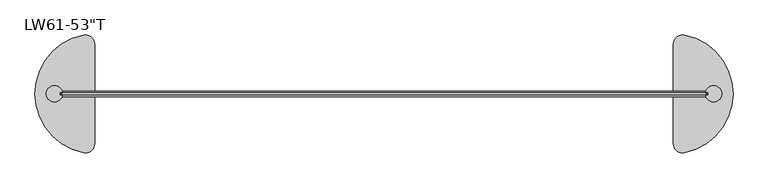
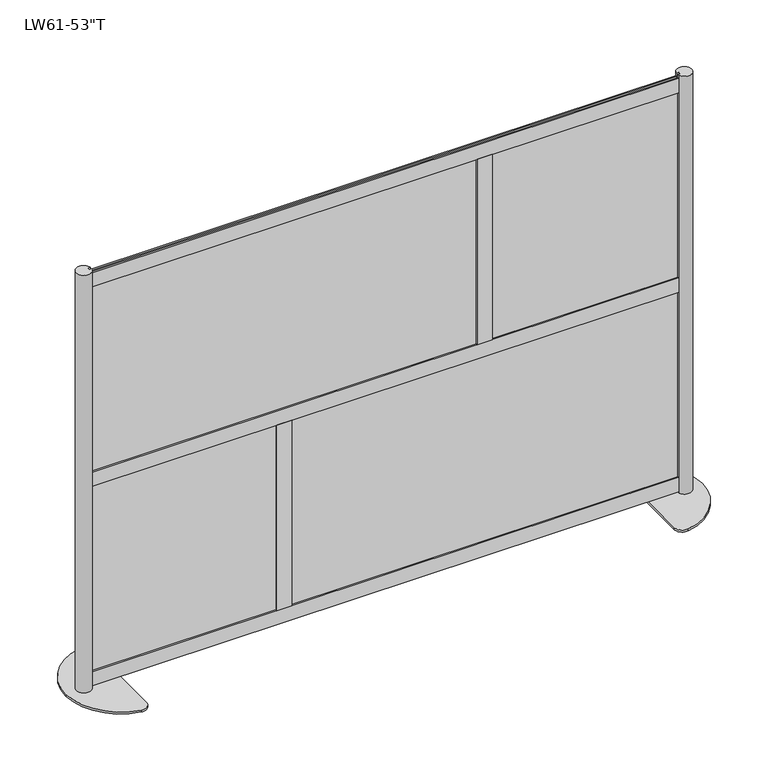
"""IFC4 building model written with IfcOpenShell, lengths in millimetres: furniture geometry."""

from ifc_helpers import new_model, si_unit, point, frame, frame_2d, origin, origin_with_axes, place, context, project, spatial, polyline, circle_curve, trimmed, segment, composite_curve, outline, extrude, source, transform, mapped, element, save


def furniture_4f8a734f(model_context):
    return source(origin(), model_context, "Body", "SweptSolid", [
        extrude(outline(polyline([(289.233901, -1.531862), (-899.803599, -1.531862), (-899.803599, 1.643138), (289.233901, 1.643138), (289.233901, -1.531862)])), frame((0.0, 0.0, 689.2170135), z_axis=(0.0, 0.0, 1.0), x_axis=(1.0, 0.0, 0.0)), (0.0, 0.0, 1.0), 608.965),
        extrude(outline(polyline([(-897.2933616, 1.5875), (-319.4433608, 1.5875), (-319.4435344, -1.5875), (-897.2935353, -1.5875), (-897.2933616, 1.5875)])), frame((0.0, 0.0, 49.2633), z_axis=(0.0, 0.0, 1.0), x_axis=(1.0, 0.0, 0.0)), (0.0, 0.0, 1.0), 608.965),
        extrude(outline(polyline([(316.9532876, 1.5875), (894.8032884, 1.5875), (894.8031147, -1.5875), (316.9531139, -1.5875), (316.9532876, 1.5875)])), frame((0.0, 0.0, 689.2671), z_axis=(0.0, 0.0, 1.0), x_axis=(1.0, 0.0, 0.0)), (0.0, 0.0, 1.0), 608.965),
        extrude(outline(polyline([(893.3285387, -1.531862), (-295.7089613, -1.531862), (-295.7089613, 1.643138), (893.3285387, 1.643138), (893.3285387, -1.531862)])), frame((0.0, 0.0, 49.2132135), z_axis=(0.0, 0.0, 1.0), x_axis=(1.0, 0.0, 0.0)), (0.0, 0.0, 1.0), 608.965),
        extrude(outline(polyline([(323.8118123, 3.556), (316.6998123, 3.556), (316.6998123, -3.556), (323.8118123, -3.556), (323.8118123, -7.6327), (278.5490123, -7.6327), (278.5490123, -3.556), (285.6610123, -3.556), (285.6610123, 3.556), (278.5490123, 3.556), (278.5490123, 7.6327), (323.8118123, 7.6327), (323.8118123, 3.556)])), frame((0.0, 0.0, 696.3791), z_axis=(0.0, 0.0, 1.0), x_axis=(1.0, 0.0, 0.0)), (0.0, 0.0, 1.0), 594.741),
        extrude(outline(polyline([(-329.3680623, 3.556), (-329.3680623, 7.6327), (-284.1052623, 7.6327), (-284.1052623, 3.556), (-291.2172623, 3.556), (-291.2172623, -3.556), (-284.1052623, -3.556), (-284.1052623, -7.6327), (-329.3680623, -7.6327), (-329.3680623, -3.556), (-322.2560623, -3.556), (-322.2560623, 3.556), (-329.3680623, 3.556)])), frame((0.0, 0.0, 56.3753), z_axis=(0.0, 0.0, 1.0), x_axis=(1.0, 0.0, 0.0)), (0.0, 0.0, 1.0), 594.741),
        extrude(outline(polyline([(3.556, 651.1163), (3.556, 658.2283), (-3.556, 658.2283), (-3.556, 651.1163), (-7.6327, 651.1163), (-7.6327, 696.3791), (-3.556, 696.3791), (-3.556, 689.2671), (3.556, 689.2671), (3.556, 696.3791), (7.6327, 696.3791), (7.6327, 651.1163), (3.556, 651.1163)])), frame((-889.7874, 0.0, 0.0), z_axis=(1.0, 0.0, 0.0), x_axis=(0.0, 1.0, 0.0)), (0.0, 0.0, 1.0), 1779.5748),
        extrude(outline(polyline([(3.556, 11.1125), (3.556, 18.2245), (-3.556, 18.2245), (-3.556, 11.1125), (-7.6327, 11.1125), (-7.6327, 56.3753), (-3.556, 56.3753), (-3.556, 49.2633), (3.556, 49.2633), (3.556, 56.3753), (7.6327, 56.3753), (7.6327, 11.1125), (3.556, 11.1125)])), frame((-889.8636, 0.0, 0.0), z_axis=(1.0, 0.0, 0.0), x_axis=(0.0, 1.0, 0.0)), (0.0, 0.0, 1.0), 1779.7272),
        extrude(outline(polyline([(3.556, 1291.1200292), (3.556, 1298.2320292), (-3.556, 1298.2320292), (-3.556, 1291.1200292), (-7.6327, 1291.1200292), (-7.6327, 1336.3828292), (-3.556, 1336.3828292), (-3.556, 1329.2708292), (3.556, 1329.2708292), (3.556, 1336.3828292), (7.6327, 1336.3828292), (7.6327, 1291.1200292), (3.556, 1291.1200292)])), frame((-889.8636, 0.0, 0.0), z_axis=(1.0, 0.0, 0.0), x_axis=(0.0, 1.0, 0.0)), (0.0, 0.0, 1.0), 1779.7272),
        extrude(outline(composite_curve([segment(polyline([(889.8636, -7.7568093), (889.8636, -3.556), (896.9756, -3.556), (896.9756, 3.556), (889.8636, 3.556), (889.8636, 7.7568093)]), True, "CONTINUOUS"), segment(trimmed(circle_curve(frame_2d((910.9665837, 0.0)), 22.4834163), [point((889.8636, 7.7568093))], [point((889.8636, -7.7568093))], False, "CARTESIAN"), True, "CONTINUOUS")], self_intersect=False)), frame((0.0, 0.0, 6.35), z_axis=(0.0, 0.0, 1.0), x_axis=(1.0, 0.0, 0.0)), (0.0, 0.0, 1.0), 1339.85),
        extrude(outline(composite_curve([segment(polyline([(800.1, -137.3715036), (800.1, 137.3715036)]), True, "CONTINUOUS"), segment(trimmed(circle_curve(frame_2d((825.5, 137.3715036)), 25.4), [point((800.1, 137.3715036))], [point((830.1181818, 162.3481406))], False, "CARTESIAN"), True, "CONTINUOUS"), segment(trimmed(circle_curve(frame_2d((800.1, 0.0)), 165.1), [point((830.1181818, 162.3481406))], [point((965.2, 0.0))], False, "CARTESIAN"), True, "CONTINUOUS"), segment(trimmed(circle_curve(frame_2d((800.1, 0.0)), 165.1), [point((965.2, 0.0))], [point((830.1181818, -162.3481406))], False, "CARTESIAN"), True, "CONTINUOUS"), segment(trimmed(circle_curve(frame_2d((825.5, -137.3715036)), 25.4), [point((830.1181818, -162.3481406))], [point((800.1, -137.3715036))], False, "CARTESIAN"), True, "CONTINUOUS")], self_intersect=False)), origin_with_axes(), (0.0, 0.0, 1.0), 6.35),
        extrude(outline(composite_curve([segment(trimmed(circle_curve(frame_2d((-910.9665837, 0.0)), 22.4834163), [point((-889.8636, -7.7568093))], [point((-889.8636, 7.7568093))], False, "CARTESIAN"), True, "CONTINUOUS"), segment(polyline([(-889.8636, 7.7568093), (-889.8636, 3.556), (-896.9756, 3.556), (-896.9756, -3.556), (-889.8636, -3.556), (-889.8636, -7.7568093)]), True, "CONTINUOUS")], self_intersect=False)), frame((0.0, 0.0, 6.35), z_axis=(0.0, 0.0, 1.0), x_axis=(1.0, 0.0, 0.0)), (0.0, 0.0, 1.0), 1339.85),
        extrude(outline(composite_curve([segment(trimmed(circle_curve(frame_2d((-825.5, -137.3715036)), 25.4), [point((-800.1, -137.3715036))], [point((-830.1181818, -162.3481406))], False, "CARTESIAN"), True, "CONTINUOUS"), segment(trimmed(circle_curve(frame_2d((-800.1, 0.0)), 165.1), [point((-830.1181818, -162.3481406))], [point((-965.2, 0.0))], False, "CARTESIAN"), True, "CONTINUOUS"), segment(trimmed(circle_curve(frame_2d((-800.1, 0.0)), 165.1), [point((-965.2, 0.0))], [point((-830.1181818, 162.3481406))], False, "CARTESIAN"), True, "CONTINUOUS"), segment(trimmed(circle_curve(frame_2d((-825.5, 137.3715036)), 25.4), [point((-830.1181818, 162.3481406))], [point((-800.1, 137.3715036))], False, "CARTESIAN"), True, "CONTINUOUS"), segment(polyline([(-800.1, 137.3715036), (-800.1, -137.3715036)]), True, "CONTINUOUS")], self_intersect=False)), origin_with_axes(), (0.0, 0.0, 1.0), 6.35),
    ])


if __name__ == "__main__":
    model = new_model("IFC4")
    model_context = context("Model", 3, world=origin())
    ifc_project = project(units=[si_unit("LENGTHUNIT", "METRE", prefix="MILLI")], contexts=[model_context])
    site = spatial("IfcSite", under=ifc_project)
    building = spatial("IfcBuilding", under=site)
    placement = place(None, origin())
    furniture_shape = furniture_4f8a734f(model_context)
    element("IfcFurniture", 1, ObjectType="Loft_Wall-Framewall-76 : LW61-53\"T", at=placement, inside=building, context=model_context, shape_type="MappedRepresentation", body=[
        mapped(furniture_shape, transform((0.0, 0.0, 0.0), x_axis=(1.0, 0.0, 0.0), y_axis=(0.0, 1.0, 0.0), z_axis=(0.0, 0.0, 1.0))),
    ])
    save(model, "model.ifc")
